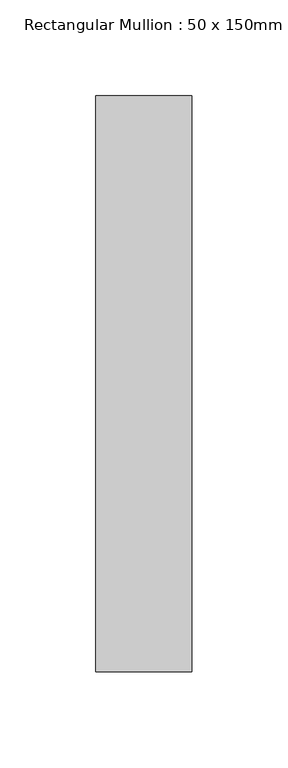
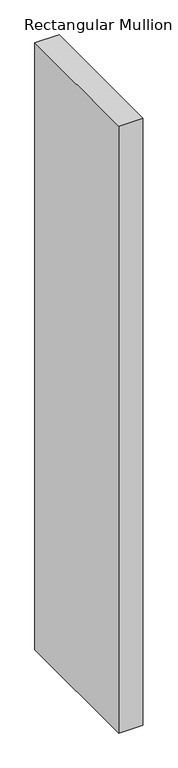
"""IFC4 building model written with IfcOpenShell, lengths in millimetres: member geometry, Rectangular Mullion : 50 x 150mm."""

import ifcopenshell
import ifcopenshell.guid

model = None  # the IFC model being written
_history = None  # IfcOwnerHistory: only IFC2X3 demands one
_inside = {}  # id of a spatial element -> (the spatial element, [elements in it])
_under = {}  # id of a project, library or spatial element -> (it, [spatial elements below it])
_declared = {}  # id of a project -> (the project, [libraries it declares])
_typed = {}  # id of a type object -> (the type object, [elements of that type])
_made_of = {}  # id of a material, layer set ... -> (it, [elements and type objects made of it])


def new_model(schema):
    """Start an empty IFC model of exactly this schema.

    Asked for "IFC4X3", IfcOpenShell would pick the latest addendum, in which some entities
    have other attributes; the version numbers below select the first issue.
    IFC2X3 requires an IfcOwnerHistory on every rooted entity: one is made here for all.
    """
    global model, _history
    if schema == "IFC4X3":
        model = ifcopenshell.file(schema_version=(4, 3, 0, 0))
    else:
        model = ifcopenshell.file(schema=schema)
    _inside.clear()
    _under.clear()
    _declared.clear()
    _typed.clear()
    _made_of.clear()
    _history = None
    if model.schema == "IFC2X3":
        org = make("IfcOrganization", Name="unknown")
        user = make(
            "IfcPersonAndOrganization",
            ThePerson=make("IfcPerson", FamilyName="unknown"),
            TheOrganization=org,
        )
        app = make(
            "IfcApplication",
            ApplicationDeveloper=org,
            Version="unknown",
            ApplicationFullName="unknown",
            ApplicationIdentifier="unknown",
        )
        _history = make(
            "IfcOwnerHistory",
            OwningUser=user,
            OwningApplication=app,
            ChangeAction="ADDED",
            CreationDate=0,
        )
    return model


def make(cls, **values):
    """One entity of the class cls with the attributes given. An attribute that is None is left unset."""
    return model.create_entity(
        cls, **{name: value for name, value in values.items() if value is not None}
    )


def rooted(cls, **values):
    """An entity with a GlobalId (a new one), such as an element, a storey or a relation."""
    return make(cls, GlobalId=ifcopenshell.guid.new(), OwnerHistory=_history, **values)


def si_unit(unit_type, name, prefix=None):
    """IfcSIUnit, for example si_unit("LENGTHUNIT", "METRE", prefix="MILLI")."""
    return make("IfcSIUnit", UnitType=unit_type, Prefix=prefix, Name=name)


def assignment(units):
    """IfcUnitAssignment: the units of a project."""
    return None if units is None else make("IfcUnitAssignment", Units=units)


def point(xyz):
    """IfcCartesianPoint."""
    return None if xyz is None else make("IfcCartesianPoint", Coordinates=xyz)


def direction(xyz):
    """IfcDirection."""
    return None if xyz is None else make("IfcDirection", DirectionRatios=xyz)


def frame(location, z_axis=None, x_axis=None):
    """IfcAxis2Placement3D, a coordinate frame: its origin and axes. An axis left out is left unset."""
    return make(
        "IfcAxis2Placement3D",
        Location=point(location),
        Axis=direction(z_axis),
        RefDirection=direction(x_axis),
    )


def origin():
    """The frame at (0, 0, 0) with its axes left unset."""
    return frame((0.0, 0.0, 0.0))


def place(relative_to, where):
    """IfcLocalPlacement: puts the frame where relative to a parent placement (None: the world)."""
    return make(
        "IfcLocalPlacement", PlacementRelTo=relative_to, RelativePlacement=where
    )


def context(
    kind, dimensions, precision=None, world=None, true_north=None, identifier=None
):
    """IfcGeometricRepresentationContext, for example the 3D "Model" context."""
    return make(
        "IfcGeometricRepresentationContext",
        ContextIdentifier=identifier,
        ContextType=kind,
        CoordinateSpaceDimension=dimensions,
        Precision=precision,
        WorldCoordinateSystem=world,
        TrueNorth=true_north,
    )


def project(units=None, contexts=None):
    """IfcProject with its units and contexts."""
    return rooted(
        "IfcProject",
        Name="project",
        RepresentationContexts=contexts,
        UnitsInContext=assignment(units),
    )


def spatial(cls, under=None, at=None, **own):
    """A site, building, storey or space (cls), placed at a placement, below another one or the project."""
    s = rooted(cls, ObjectPlacement=at, **own)
    if under is not None:
        _under.setdefault(under.id(), (under, []))[1].append(s)
    return s


def polyline(points):
    """IfcPolyline through the points."""
    return make("IfcPolyline", Points=[point(p) for p in points])


def outline(outer, holes=None, kind="AREA"):
    """IfcArbitraryClosedProfileDef: a profile drawn as a closed curve; with holes, ...WithVoids."""
    if holes is None:
        return make("IfcArbitraryClosedProfileDef", ProfileType=kind, OuterCurve=outer)
    return make(
        "IfcArbitraryProfileDefWithVoids",
        ProfileType=kind,
        OuterCurve=outer,
        InnerCurves=holes,
    )


def extrude(swept, where, along, depth):
    """IfcExtrudedAreaSolid: the profile swept, set in the frame where, extruded along a direction by depth."""
    return make(
        "IfcExtrudedAreaSolid",
        SweptArea=swept,
        Position=where,
        ExtrudedDirection=direction(along),
        Depth=depth,
    )


def shape(context_of_items, identifier, shape_type, items):
    """IfcShapeRepresentation: the items that make up one representation, for example the "Body"."""
    return make(
        "IfcShapeRepresentation",
        ContextOfItems=context_of_items,
        RepresentationIdentifier=identifier,
        RepresentationType=shape_type,
        Items=items,
    )


def source(mapping_origin, context_of_items, identifier, shape_type, items):
    """IfcRepresentationMap: a shape defined once, which mapped items show again and again."""
    return make(
        "IfcRepresentationMap",
        MappingOrigin=mapping_origin,
        MappedRepresentation=shape(context_of_items, identifier, shape_type, items),
    )


def transform(
    local_origin,
    x_axis=None,
    y_axis=None,
    z_axis=None,
    scale=None,
    scale2=None,
    scale3=None,
    uniform=True,
):
    """IfcCartesianTransformationOperator3D, or its non-uniform kind. x_axis, y_axis, z_axis: its Axis1, 2, 3."""
    if uniform:
        return make(
            "IfcCartesianTransformationOperator3D",
            Axis1=direction(x_axis),
            Axis2=direction(y_axis),
            LocalOrigin=point(local_origin),
            Scale=scale,
            Axis3=direction(z_axis),
        )
    return make(
        "IfcCartesianTransformationOperator3DnonUniform",
        Axis1=direction(x_axis),
        Axis2=direction(y_axis),
        LocalOrigin=point(local_origin),
        Scale=scale,
        Axis3=direction(z_axis),
        Scale2=scale2,
        Scale3=scale3,
    )


def mapped(mapping_source, mapping_target):
    """IfcMappedItem: shows the shape of a source again, moved by a transform."""
    return make(
        "IfcMappedItem", MappingSource=mapping_source, MappingTarget=mapping_target
    )


def made_of(thing, what):
    """Note that an element or type object is made of a material, layer set ...; save() writes the relation."""
    if what is not None:
        _made_of.setdefault(what.id(), (what, []))[1].append(thing)
    return thing


def element(
    cls,
    number,
    at=None,
    inside=None,
    cuts=None,
    type_object=None,
    material=None,
    context=None,
    identifier="Body",
    shape_type=None,
    held_by="IfcProductDefinitionShape",
    body=None,
    shapes=None,
    **own,
):
    """One element of the class cls, such as IfcWall. Its Tag is "e" and its number.

    at: its placement. inside: the storey or other place that contains it. cuts: it is an
    opening in that element (IfcRelVoidsElement). A single representation is given by context,
    identifier, shape_type and body (its items); several are given by shapes. held_by: the class
    of the entity that holds the representations. save() writes the other relations.
    """
    e = rooted(cls, Tag="e%d" % number, ObjectPlacement=at, **own)
    if body is not None:
        shapes = [shape(context, identifier, shape_type, body)]
    if shapes is not None:
        e.Representation = make(held_by, Representations=shapes)
    if inside is not None:
        _inside.setdefault(inside.id(), (inside, []))[1].append(e)
    if cuts is not None:
        rooted(
            "IfcRelVoidsElement", RelatingBuildingElement=cuts, RelatedOpeningElement=e
        )
    if type_object is not None:
        _typed.setdefault(type_object.id(), (type_object, []))[1].append(e)
    return made_of(e, material)


def aggregate(whole, parts):
    """IfcRelAggregates: a whole, such as a stair, and the parts it consists of."""
    return rooted("IfcRelAggregates", RelatingObject=whole, RelatedObjects=parts)


def save(model, path):
    """Write the relations noted so far, then the file.

    IfcRelAggregates (storeys below a building ...), IfcRelContainedInSpatialStructure (elements
    in a storey), IfcRelDefinesByType, IfcRelAssociatesMaterial and IfcRelDeclares: one each for
    every whole, place, type object, material and project.
    """
    for whole, parts in _under.values():
        aggregate(whole, parts)
    for where, things in _inside.values():
        rooted(
            "IfcRelContainedInSpatialStructure",
            RelatedElements=things,
            RelatingStructure=where,
        )
    for kind, things in _typed.values():
        rooted("IfcRelDefinesByType", RelatedObjects=things, RelatingType=kind)
    for what, things in _made_of.values():
        rooted("IfcRelAssociatesMaterial", RelatedObjects=things, RelatingMaterial=what)
    for by, libraries in _declared.values():
        rooted("IfcRelDeclares", RelatingContext=by, RelatedDefinitions=libraries)
    model.write(path)


def rectangular_mullion_50_x_150mm_c6f09c4a(model_context):
    return source(origin(), model_context, "Body", "SweptSolid", [
        extrude(outline(polyline([(0.0, 125.0), (0.0, -175.0), (-50.0, -175.0), (-50.0, 125.0), (0.0, 125.0)])), frame((0.0, 0.0, -1327.0709085), z_axis=(0.0, 0.0, 1.0), x_axis=(1.0, 0.0, 0.0)), (0.0, 0.0, 1.0), 1327.0709085),
    ])


if __name__ == "__main__":
    model = new_model("IFC4")
    model_context = context("Model", 3, world=origin())
    ifc_project = project(units=[si_unit("LENGTHUNIT", "METRE", prefix="MILLI")], contexts=[model_context])
    site = spatial("IfcSite", under=ifc_project)
    building = spatial("IfcBuilding", under=site)
    placement = place(None, origin())
    rectangular_mullion_50_x_150mm_shape = rectangular_mullion_50_x_150mm_c6f09c4a(model_context)
    element("IfcMember", 1, ObjectType="Rectangular Mullion : 50 x 150mm", at=placement, inside=building, context=model_context, shape_type="MappedRepresentation", body=[
        mapped(rectangular_mullion_50_x_150mm_shape, transform((0.0, 0.0, 0.0), x_axis=(1.0, 0.0, 0.0), y_axis=(0.0, 1.0, 0.0), z_axis=(0.0, 0.0, 1.0))),
    ])
    save(model, "model.ifc")
